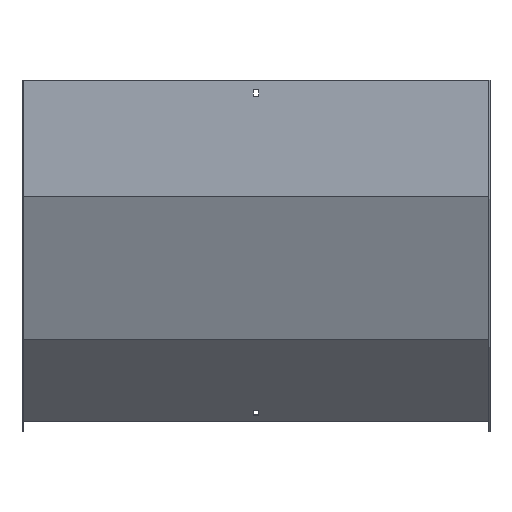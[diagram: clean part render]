
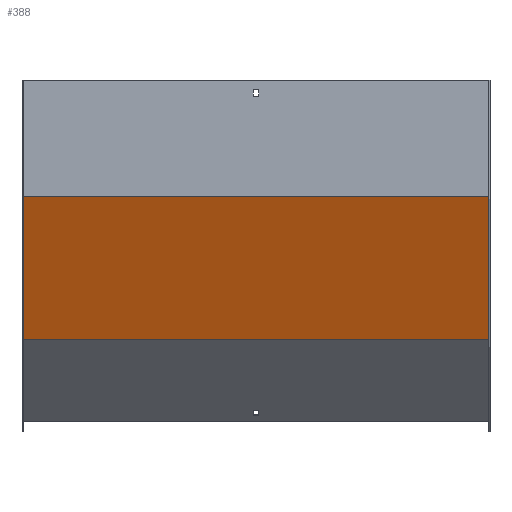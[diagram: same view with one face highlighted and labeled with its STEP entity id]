
A CAD part, front view. The second image highlights one B-rep face of the part: STEP entity #388.
In plain terms, the highlighted planar face has unit normal (0, -0.924, -0.383).
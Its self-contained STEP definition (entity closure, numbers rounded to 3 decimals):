
#11 = EDGE_LOOP ( 'NONE', ( #850, #250, #648, #691 ) ) ;
#21 = PLANE ( 'NONE',  #724 ) ;
#49 = VERTEX_POINT ( 'NONE', #504 ) ;
#103 = DIRECTION ( 'NONE',  ( 0., 0.383, -0.924 ) ) ;
#142 = VECTOR ( 'NONE', #103, 1000. ) ;
#152 = VERTEX_POINT ( 'NONE', #799 ) ;
#170 = CARTESIAN_POINT ( 'NONE',  ( 301.5, 74.691, -334.04 ) ) ;
#177 = VERTEX_POINT ( 'NONE', #465 ) ;
#180 = DIRECTION ( 'NONE',  ( -1., 0., 0. ) ) ;
#204 = LINE ( 'NONE', #697, #142 ) ;
#226 = VECTOR ( 'NONE', #473, 1000. ) ;
#232 = VECTOR ( 'NONE', #811, 1000. ) ;
#250 = ORIENTED_EDGE ( 'NONE', *, *, #466, .F. ) ;
#307 = EDGE_CURVE ( 'NONE', #177, #713, #400, .T. ) ;
#367 = EDGE_CURVE ( 'NONE', #177, #152, #468, .T. ) ;
#388 = ADVANCED_FACE ( 'NONE', ( #808 ), #21, .F. ) ;
#400 = LINE ( 'NONE', #685, #226 ) ;
#403 = DIRECTION ( 'NONE',  ( 0., 0.924, 0.383 ) ) ;
#465 = CARTESIAN_POINT ( 'NONE',  ( 300., -1.5, -150.098 ) ) ;
#466 = EDGE_CURVE ( 'NONE', #152, #49, #766, .T. ) ;
#468 = LINE ( 'NONE', #674, #232 ) ;
#473 = DIRECTION ( 'NONE',  ( -1., 0., 0. ) ) ;
#504 = CARTESIAN_POINT ( 'NONE',  ( -300., 74.691, -334.04 ) ) ;
#541 = DIRECTION ( 'NONE',  ( 0., -0.383, 0.924 ) ) ;
#560 = CARTESIAN_POINT ( 'NONE',  ( -300., -1.5, -150.098 ) ) ;
#648 = ORIENTED_EDGE ( 'NONE', *, *, #367, .F. ) ;
#674 = CARTESIAN_POINT ( 'NONE',  ( 300., -54.348, -22.512 ) ) ;
#685 = CARTESIAN_POINT ( 'NONE',  ( 301.5, -1.5, -150.098 ) ) ;
#691 = ORIENTED_EDGE ( 'NONE', *, *, #307, .T. ) ;
#695 = VECTOR ( 'NONE', #180, 1000. ) ;
#697 = CARTESIAN_POINT ( 'NONE',  ( -300., -54.348, -22.512 ) ) ;
#713 = VERTEX_POINT ( 'NONE', #560 ) ;
#724 = AXIS2_PLACEMENT_3D ( 'NONE', #736, #403, #541 ) ;
#736 = CARTESIAN_POINT ( 'NONE',  ( 301.5, -1.386, -150.374 ) ) ;
#766 = LINE ( 'NONE', #170, #695 ) ;
#779 = EDGE_CURVE ( 'NONE', #713, #49, #204, .T. ) ;
#799 = CARTESIAN_POINT ( 'NONE',  ( 300., 74.691, -334.04 ) ) ;
#808 = FACE_OUTER_BOUND ( 'NONE', #11, .T. ) ;
#811 = DIRECTION ( 'NONE',  ( 0., 0.383, -0.924 ) ) ;
#850 = ORIENTED_EDGE ( 'NONE', *, *, #779, .T. ) ;
